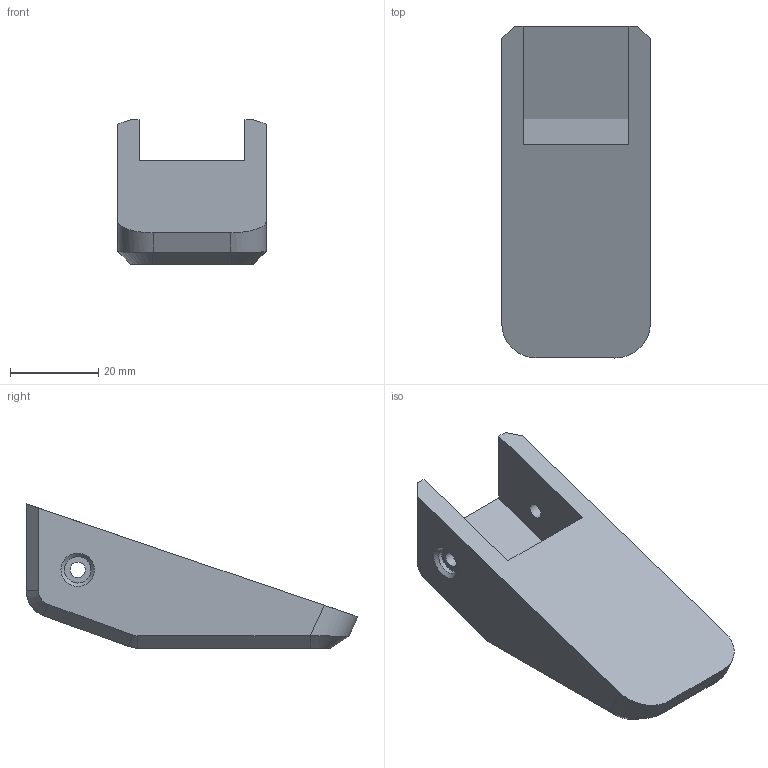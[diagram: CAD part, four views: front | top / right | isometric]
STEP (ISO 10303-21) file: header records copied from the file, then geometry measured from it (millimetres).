
FILE_DESCRIPTION(('HOOPS Exchange Step'),'2;1');
FILE_NAME('/private/var/mobile/Containers/Data/Application/6CA7BBC5-1316-439E-A042-ED4FE808E911/tmp/export/temp_export','2026-07-31T13:35:30-05:00',('mobile'),('Shapr3D Limited'),'HOOPS Exchange 2026.3','Shapr3D','Authorized');
FILE_SCHEMA( ('AP242_MANAGED_MODEL_BASED_3D_ENGINEERING_MIM_LF {1 0 10303 442 1 1 4}') );
Length unit declared in the file: millimetre
Products named in the file (3): Grip Nub; Grip Nub.step; root
Assembly tree (2 placements, depth 3):
  root
    Grip Nub.step
      Grip Nub
Bounding box: 33.6 x 75.2 x 32.7 mm (x, y, z)
Volume: 34912.5 mm3; surface area: 9223 mm2
Topology: 1 solids, 1 shells, 36 faces, 86 edges, 54 vertices
Faces by surface type: plane 20, cylinder 8, cone 6, bspline 2
Full cylindrical faces by diameter (mm): 3.5 x2, 6 x2
Entity records: 1265 total; most frequent: CARTESIAN_POINT 365, ORIENTED_EDGE 172, DIRECTION 170, EDGE_CURVE 86, AXIS2_PLACEMENT_3D 58, VERTEX_POINT 54, VECTOR 54, LINE 54
